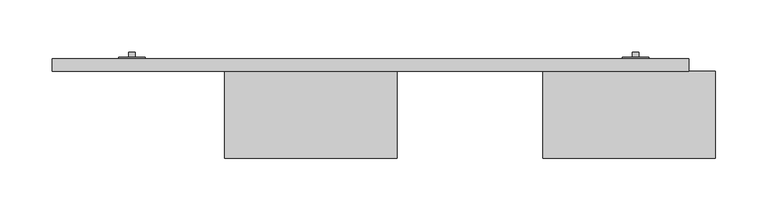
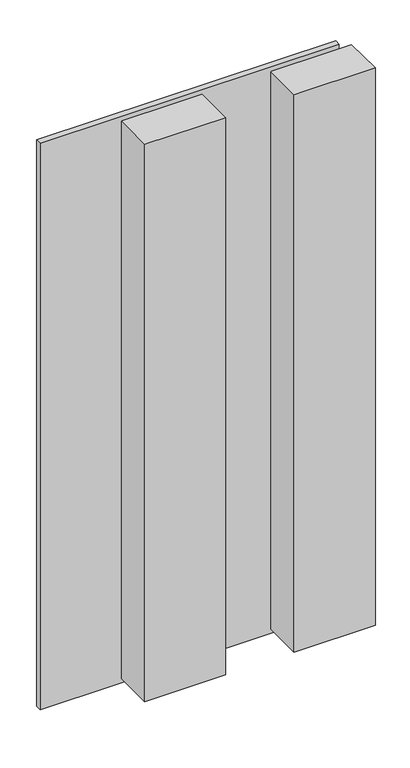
"""IFC4 building model written with IfcOpenShell, lengths in millimetres: proxy geometry, Arktura-SoundForm-Plank-RFA : Arktura-SoundForm-Plank-RFA."""

from ifc_helpers import new_model, si_unit, point, frame, frame_2d, origin, origin_with_axes, place, context, project, spatial, polyline, circle_curve, trimmed, segment, composite_curve, outline, extrude, source, transform, mapped, element, save


def generic_models_3dfd42c7(model_context):
    return source(origin(), model_context, "Body", "SweptSolid", [
        extrude(outline(polyline([(76.2, -31.75), (50.8, -31.75), (50.8, -30.3215536), (76.2, -30.3215536), (76.2, -31.75)])), frame((0.0, 0.0, 1133.475), z_axis=(0.0, 0.0, 1.0), x_axis=(1.0, 0.0, 0.0)), (0.0, 0.0, 1.0), 25.4),
        extrude(outline(composite_curve([segment(trimmed(circle_curve(frame_2d((1146.175, 63.5)), 3.175), [point((1146.175, 60.325))], [point((1146.175, 66.675))], False, "CARTESIAN"), True, "CONTINUOUS"), segment(trimmed(circle_curve(frame_2d((1146.175, 63.5)), 3.175), [point((1146.175, 66.675))], [point((1146.175, 60.325))], False, "CARTESIAN"), True, "CONTINUOUS")], self_intersect=False)), frame((0.0, -30.3215536, 0.0), z_axis=(0.0, 1.0, 0.0), x_axis=(0.0, 0.0, 1.0)), (0.0, 0.0, 1.0), 4.9215536),
        extrude(outline(polyline([(558.8, -31.75), (533.4, -31.75), (533.4, -30.3215536), (558.8, -30.3215536), (558.8, -31.75)])), frame((0.0, 0.0, 1133.475), z_axis=(0.0, 0.0, 1.0), x_axis=(1.0, 0.0, 0.0)), (0.0, 0.0, 1.0), 25.4),
        extrude(outline(composite_curve([segment(trimmed(circle_curve(frame_2d((1146.175, 546.1)), 3.175), [point((1146.175, 542.925))], [point((1146.175, 549.275))], False, "CARTESIAN"), True, "CONTINUOUS"), segment(trimmed(circle_curve(frame_2d((1146.175, 546.1)), 3.175), [point((1146.175, 549.275))], [point((1146.175, 542.925))], False, "CARTESIAN"), True, "CONTINUOUS")], self_intersect=False)), frame((0.0, -30.3215536, 0.0), z_axis=(0.0, 1.0, 0.0), x_axis=(0.0, 0.0, 1.0)), (0.0, 0.0, 1.0), 4.9215536),
        extrude(outline(polyline([(76.2, -31.75), (50.8, -31.75), (50.8, -30.3215536), (76.2, -30.3215536), (76.2, -31.75)])), frame((0.0, 0.0, 60.325), z_axis=(0.0, 0.0, 1.0), x_axis=(1.0, 0.0, 0.0)), (0.0, 0.0, 1.0), 25.4),
        extrude(outline(composite_curve([segment(trimmed(circle_curve(frame_2d((73.025, 63.5)), 3.175), [point((73.025, 60.325))], [point((73.025, 66.675))], False, "CARTESIAN"), True, "CONTINUOUS"), segment(trimmed(circle_curve(frame_2d((73.025, 63.5)), 3.175), [point((73.025, 66.675))], [point((73.025, 60.325))], False, "CARTESIAN"), True, "CONTINUOUS")], self_intersect=False)), frame((0.0, -30.3215536, 0.0), z_axis=(0.0, 1.0, 0.0), x_axis=(0.0, 0.0, 1.0)), (0.0, 0.0, 1.0), 4.9215536),
        extrude(outline(polyline([(558.8, -31.75), (533.4, -31.75), (533.4, -30.3215536), (558.8, -30.3215536), (558.8, -31.75)])), frame((0.0, 0.0, 60.325), z_axis=(0.0, 0.0, 1.0), x_axis=(1.0, 0.0, 0.0)), (0.0, 0.0, 1.0), 25.4),
        extrude(outline(composite_curve([segment(trimmed(circle_curve(frame_2d((73.025, 546.1)), 3.175), [point((73.025, 542.925))], [point((73.025, 549.275))], False, "CARTESIAN"), True, "CONTINUOUS"), segment(trimmed(circle_curve(frame_2d((73.025, 546.1)), 3.175), [point((73.025, 549.275))], [point((73.025, 542.925))], False, "CARTESIAN"), True, "CONTINUOUS")], self_intersect=False)), frame((0.0, -30.3215536, 0.0), z_axis=(0.0, 1.0, 0.0), x_axis=(0.0, 0.0, 1.0)), (0.0, 0.0, 1.0), 4.9215536),
        extrude(outline(polyline([(-12.7, -43.749976), (-12.7, -31.75), (596.9, -31.75), (596.9, -43.749976), (-12.7, -43.749976)])), origin_with_axes(), (0.0, 0.0, 1.0), 1219.2),
        extrude(outline(polyline([(622.3, -127.0), (457.2, -127.0), (457.2, -43.749976), (622.3, -43.749976), (622.3, -127.0)])), frame((0.0, 0.0, 9.525), z_axis=(0.0, 0.0, 1.0), x_axis=(1.0, 0.0, 0.0)), (0.0, 0.0, 1.0), 1200.15),
        extrude(outline(polyline([(152.4, -127.0), (152.4, -43.749976), (317.5, -43.749976), (317.5, -127.0), (152.4, -127.0)])), frame((0.0, 0.0, 9.525), z_axis=(0.0, 0.0, 1.0), x_axis=(1.0, 0.0, 0.0)), (0.0, 0.0, 1.0), 1200.15),
    ])


if __name__ == "__main__":
    model = new_model("IFC4")
    model_context = context("Model", 3, world=origin())
    ifc_project = project(units=[si_unit("LENGTHUNIT", "METRE", prefix="MILLI")], contexts=[model_context])
    site = spatial("IfcSite", under=ifc_project)
    building = spatial("IfcBuilding", under=site)
    placement = place(None, origin())
    generic_models_shape = generic_models_3dfd42c7(model_context)
    element("IfcBuildingElementProxy", 1, Name="Arktura-SoundForm-Plank-RFA : Arktura-SoundForm-Plank-RFA", ObjectType="Arktura-SoundForm-Plank-RFA : Arktura-SoundForm-Plank-RFA", at=placement, inside=building, context=model_context, shape_type="MappedRepresentation", body=[
        mapped(generic_models_shape, transform((0.0, 0.0, 0.0), x_axis=(1.0, 0.0, 0.0), y_axis=(0.0, 1.0, 0.0), z_axis=(0.0, 0.0, 1.0))),
    ])
    save(model, "model.ifc")
